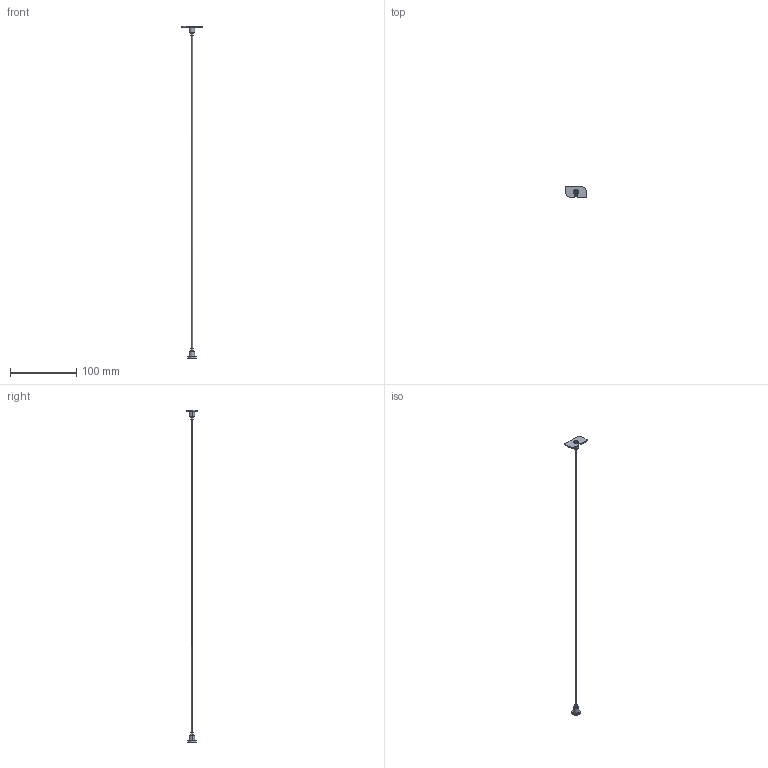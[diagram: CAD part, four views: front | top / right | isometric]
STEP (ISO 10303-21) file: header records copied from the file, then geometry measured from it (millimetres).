
FILE_DESCRIPTION(/* description */ (''),/* implementation_level */ '2;1');
FILE_NAME(/* name */ 'C:\Users\Franco Sartori E\Documents\FARO\DUPLICADO\Modelos\01_Digitalizados\PRIORIZACION 2D\1_NESO\03_Publicación\5020210102.stp',/* time_stamp */ '2021-01-21T13:04:30+01:00',/* author */ ('Franco Sartori E'),/* organization */ (''),/* preprocessor_version */ 'ST-DEVELOPER v18.1',/* originating_system */ 'AutoCAD Mechanical',/* authorisation */ '');
FILE_SCHEMA (('AUTOMOTIVE_DESIGN { 1 0 10303 214 3 1 1 }'));
Length unit declared in the file: millimetre
Products named in the file (3): Product; 5020210102 - LAMP-467965-_3D_; 5020210102_SP - LAMP-469185-_3D_
Assembly tree (2 placements, depth 2):
  Product
    5020210102 - LAMP-467965-_3D_
    5020210102_SP - LAMP-469185-_3D_
Bounding box: 32 x 17 x 502 mm (x, y, z)
Surface area: 4620.3 mm2 (no closed solid volume)
Topology: 0 solids, 4 shells, 54 faces, 126 edges, 72 vertices
Faces by surface type: plane 27, cylinder 23, torus 4
Entity records: 2387 total; most frequent: CARTESIAN_POINT 1115, DIRECTION 262, ORIENTED_EDGE 228, EDGE_CURVE 126, AXIS2_PLACEMENT_3D 99, VERTEX_POINT 72, LINE 64, VECTOR 64
